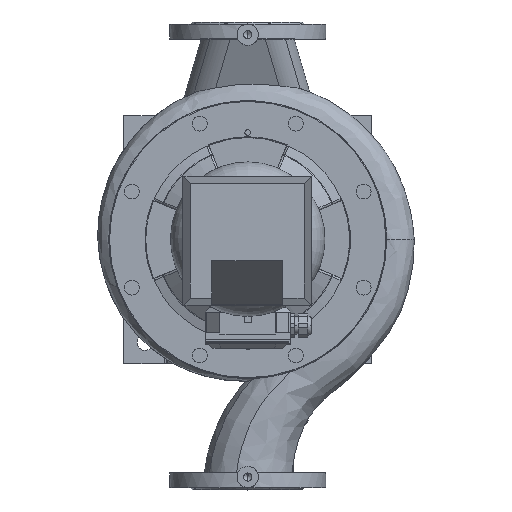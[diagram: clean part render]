
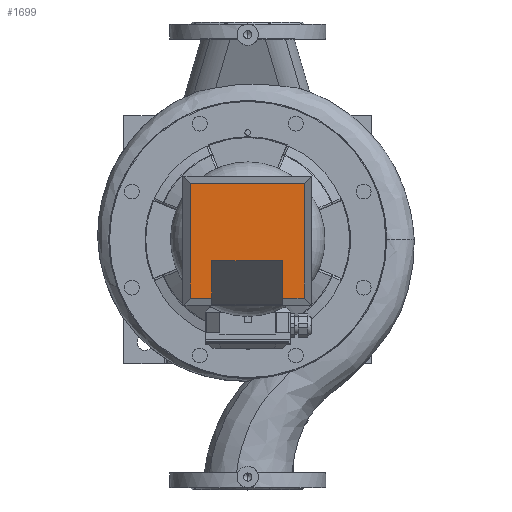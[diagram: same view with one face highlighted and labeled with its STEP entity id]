
A CAD part, top view. The second image highlights one B-rep face of the part: STEP entity #1699.
In plain terms, the highlighted planar face has unit normal (0, 0, 1) as drawn and (0, 1, 0) by its records, which use the part's own axes.
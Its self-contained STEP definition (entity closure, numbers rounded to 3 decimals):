
#1699=ADVANCED_FACE('',(#3192),#3193,.T.);
#1709=EDGE_CURVE('',#3205,#3208,#3209,.T.);
#3192=FACE_OUTER_BOUND('',#8167,.T.);
#3193=PLANE('',#8168);
#3205=VERTEX_POINT('',#8181);
#3208=VERTEX_POINT('',#8186);
#3209=LINE('',#8187,#8188);
#8167=EDGE_LOOP('',(#13937,#13938,#13939,#13940,#13941,#13942,#13943,#13944));
#8168=AXIS2_PLACEMENT_3D('',#13945,#13946,#13947);
#8181=CARTESIAN_POINT('',(50.0,114.0,118.64));
#8186=CARTESIAN_POINT('',(50.0,114.0,171.0));
#8187=CARTESIAN_POINT('',(50.0,114.0,90.179));
#8188=VECTOR('',#13973,1.0);
#13937=ORIENTED_EDGE('',*,*,#1709,.T.);
#13938=ORIENTED_EDGE('',*,*,#19888,.F.);
#13939=ORIENTED_EDGE('',*,*,#19896,.F.);
#13940=ORIENTED_EDGE('',*,*,#19898,.F.);
#13941=ORIENTED_EDGE('',*,*,#19890,.F.);
#13942=ORIENTED_EDGE('',*,*,#19884,.F.);
#13943=ORIENTED_EDGE('',*,*,#19877,.T.);
#13944=ORIENTED_EDGE('',*,*,#19880,.T.);
#13945=CARTESIAN_POINT('',(0.0,114.0,0.0));
#13946=DIRECTION('',(0.0,1.0,-0.0));
#13947=DIRECTION('',(-1.0,0.0,0.0));
#13973=DIRECTION('',(0.0,0.0,1.0));
#19877=EDGE_CURVE('',#33045,#33047,#33049,.T.);
#19880=EDGE_CURVE('',#33047,#3205,#33052,.T.);
#19884=EDGE_CURVE('',#33045,#33056,#33057,.T.);
#19888=EDGE_CURVE('',#33062,#3208,#33064,.T.);
#19890=EDGE_CURVE('',#33056,#33066,#33067,.T.);
#19896=EDGE_CURVE('',#33072,#33062,#33074,.T.);
#19898=EDGE_CURVE('',#33066,#33072,#33076,.T.);
#33045=VERTEX_POINT('',#39733);
#33047=VERTEX_POINT('',#39736);
#33049=LINE('',#39739,#39740);
#33052=LINE('',#39744,#39745);
#33056=VERTEX_POINT('',#39750);
#33057=LINE('',#39751,#39752);
#33062=VERTEX_POINT('',#39759);
#33064=LINE('',#39762,#39763);
#33066=VERTEX_POINT('',#39765);
#33067=LINE('',#39766,#39767);
#33072=VERTEX_POINT('',#39775);
#33074=LINE('',#39778,#39779);
#33076=LINE('',#39781,#39782);
#39733=CARTESIAN_POINT('',(-50.0,114.0,171.0));
#39736=CARTESIAN_POINT('',(-50.0,114.0,118.64));
#39739=CARTESIAN_POINT('',(-50.0,114.0,90.179));
#39740=VECTOR('',#47092,1.0);
#39744=CARTESIAN_POINT('',(25.0,114.0,118.64));
#39745=VECTOR('',#47094,1.0);
#39750=CARTESIAN_POINT('',(-80.5,114.0,171.0));
#39751=CARTESIAN_POINT('',(45.25,114.0,171.0));
#39752=VECTOR('',#47096,1.0);
#39759=CARTESIAN_POINT('',(80.5,114.0,171.0));
#39762=CARTESIAN_POINT('',(45.25,114.0,171.0));
#39763=VECTOR('',#47100,1.0);
#39765=CARTESIAN_POINT('',(-80.5,114.0,10.0));
#39766=CARTESIAN_POINT('',(-80.5,114.0,0.0));
#39767=VECTOR('',#47101,1.0);
#39775=CARTESIAN_POINT('',(80.5,114.0,10.0));
#39778=CARTESIAN_POINT('',(80.5,114.0,0.0));
#39779=VECTOR('',#47106,1.0);
#39781=CARTESIAN_POINT('',(45.25,114.0,10.0));
#39782=VECTOR('',#47107,1.0);
#47092=DIRECTION('',(-0.0,0.0,-1.0));
#47094=DIRECTION('',(1.0,-0.0,0.0));
#47096=DIRECTION('',(-1.0,0.0,-0.0));
#47100=DIRECTION('',(-1.0,0.0,-0.0));
#47101=DIRECTION('',(-0.0,-0.0,-1.0));
#47106=DIRECTION('',(-0.0,0.0,1.0));
#47107=DIRECTION('',(1.0,-0.0,-0.0));
